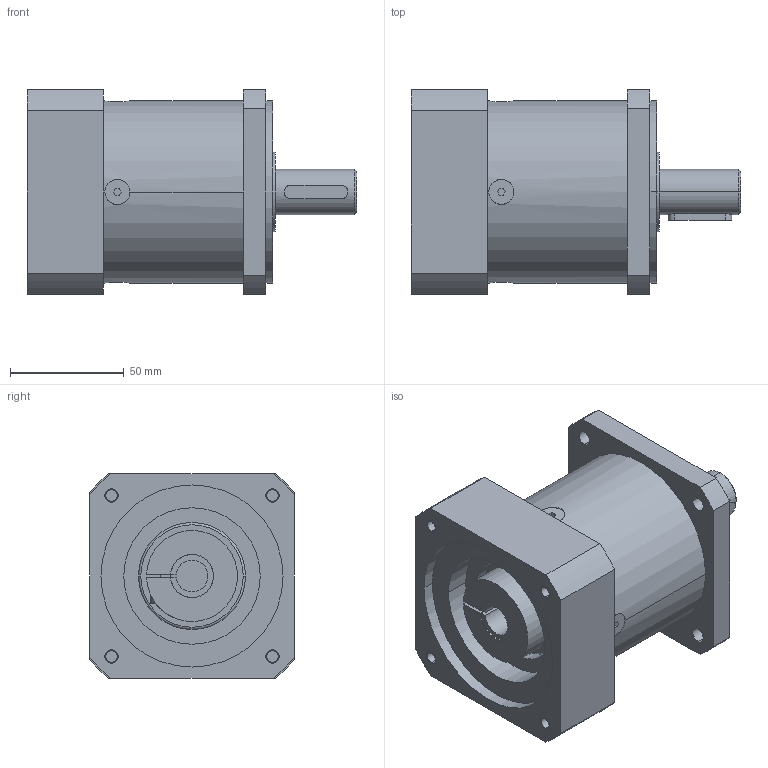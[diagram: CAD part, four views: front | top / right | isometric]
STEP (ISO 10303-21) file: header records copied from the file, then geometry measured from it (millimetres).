
FILE_DESCRIPTION((''),'2;1');
FILE_NAME('MB_PLE_MASTER','2020-02-03T',('agw'),(''),'CREO PARAMETRIC BY PTC INC, 2015290','CREO PARAMETRIC BY PTC INC, 2015290','');
FILE_SCHEMA(('AUTOMOTIVE_DESIGN { 1 0 10303 214 1 1 1 1 }'));
Length unit declared in the file: millimetre
Products named in the file (1): MB_PLE_MASTER
Bounding box: 145 x 90 x 90 mm (x, y, z)
Volume: 628359.3 mm3; surface area: 70836.5 mm2
Topology: 1 solids, 6 shells, 175 faces, 415 edges, 269 vertices
Faces by surface type: plane 85, cylinder 78, cone 6, torus 6
Entity records: 6143 total; most frequent: CARTESIAN_POINT 1050, DIRECTION 917, ORIENTED_EDGE 806, EDGE_CURVE 413, AXIS2_PLACEMENT_3D 339, VERTEX_POINT 269, VECTOR 239, LINE 239
